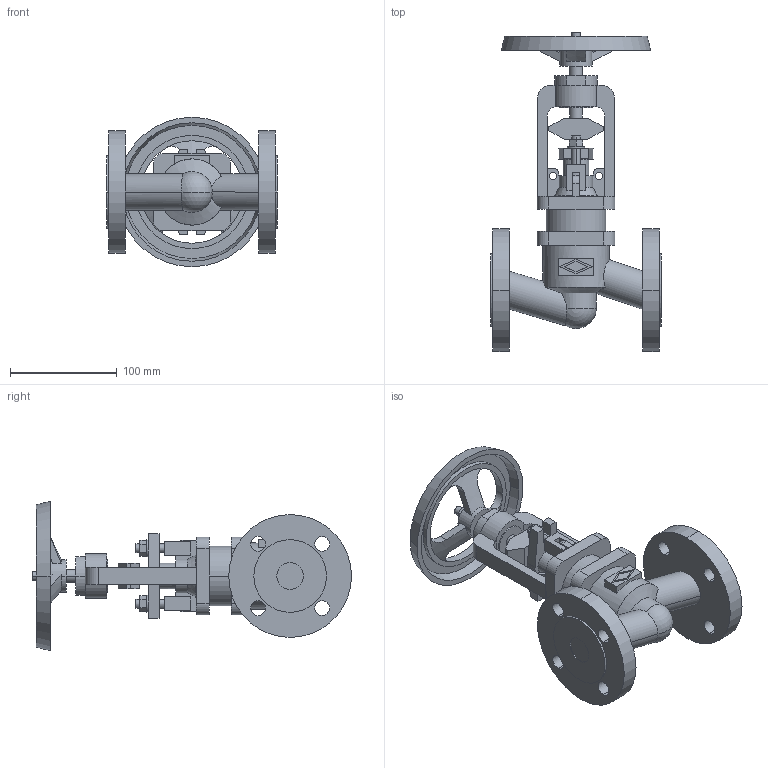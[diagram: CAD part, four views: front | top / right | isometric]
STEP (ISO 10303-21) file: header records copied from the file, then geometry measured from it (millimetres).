
FILE_DESCRIPTION(('OneSpaceDesigner STEP Export'),'2;1');
FILE_NAME('c000003759.stp','2009-06-16T11:00:31',(''),(''),'OneSpace Designer STEP processor for AP214 (Solid Model)','OneSpace Modeling 15.50B 03-Nov-2007 (C) CoCreate Software GmbH','');
FILE_SCHEMA(('AUTOMOTIVE_DESIGN { 1 0 10303 214 1 1 1 1 }'));
Length unit declared in the file: millimetre
Products named in the file (1): 1
Bounding box: 160 x 298.87 x 140 mm (x, y, z)
Volume: 976289.6 mm3; surface area: 172811.3 mm2
Topology: 1 solids, 1 shells, 283 faces, 741 edges, 486 vertices
Faces by surface type: plane 148, cylinder 109, cone 20, torus 4, sphere 2
Entity records: 10854 total; most frequent: CARTESIAN_POINT 1932, ORIENTED_EDGE 1478, DIRECTION 1241, EDGE_CURVE 739, VERTEX_POINT 486, VECTOR 433, LINE 433, AXIS2_PLACEMENT_3D 404
